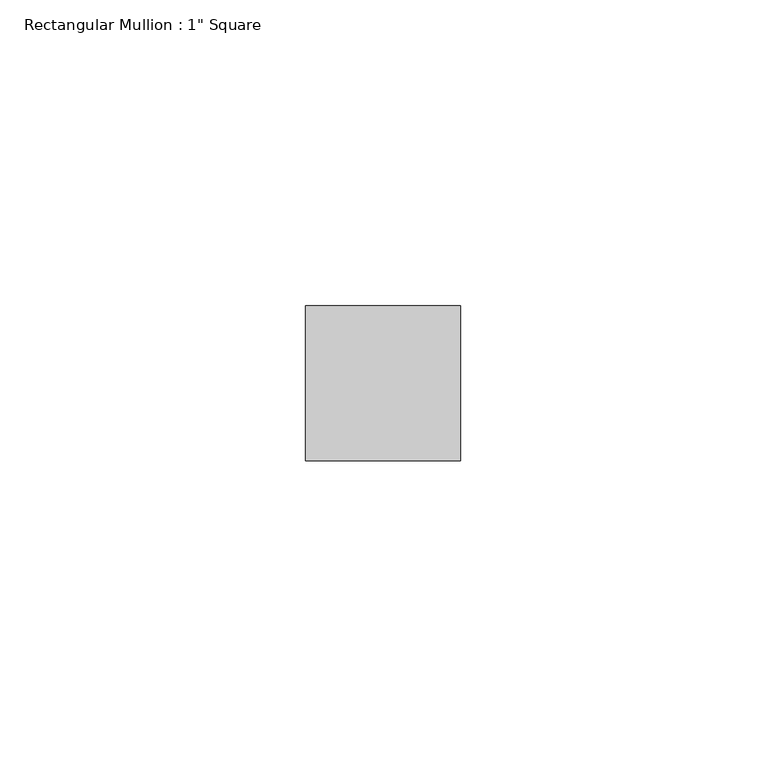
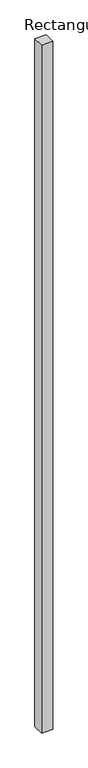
"""IFC4 building model written with IfcOpenShell, lengths in millimetres: member geometry."""

from ifc_helpers import new_model, si_unit, frame, origin, place, context, project, spatial, polyline, outline, extrude, source, transform, mapped, element, save


def member_f2e23460(model_context):
    return source(origin(), model_context, "Body", "SweptSolid", [
        extrude(outline(polyline([(12.7, 12.7), (12.7, -12.7), (-12.7, -12.7), (-12.7, 12.7), (12.7, 12.7)])), frame((0.0, 0.0, -1610.8246457), z_axis=(0.0, 0.0, 1.0), x_axis=(1.0, 0.0, 0.0)), (0.0, 0.0, 1.0), 1610.8246457),
    ])


if __name__ == "__main__":
    model = new_model("IFC4")
    model_context = context("Model", 3, world=origin())
    ifc_project = project(units=[si_unit("LENGTHUNIT", "METRE", prefix="MILLI")], contexts=[model_context])
    site = spatial("IfcSite", under=ifc_project)
    building = spatial("IfcBuilding", under=site)
    placement = place(None, origin())
    member_shape = member_f2e23460(model_context)
    element("IfcMember", 1, ObjectType="Rectangular Mullion : 1\" Square", at=placement, inside=building, context=model_context, shape_type="MappedRepresentation", body=[
        mapped(member_shape, transform((0.0, 0.0, 0.0), x_axis=(1.0, 0.0, 0.0), y_axis=(0.0, 1.0, 0.0), z_axis=(0.0, 0.0, 1.0))),
    ])
    save(model, "model.ifc")
